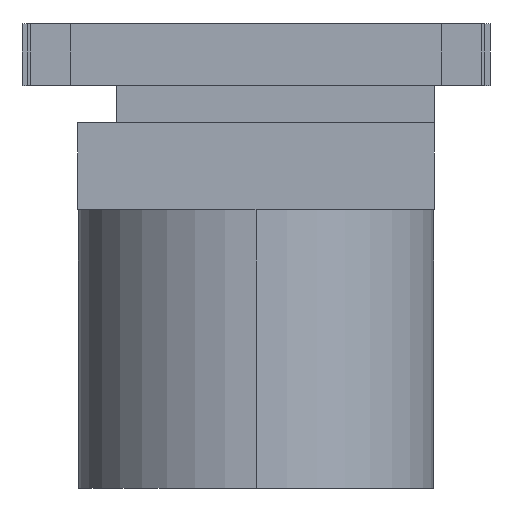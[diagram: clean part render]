
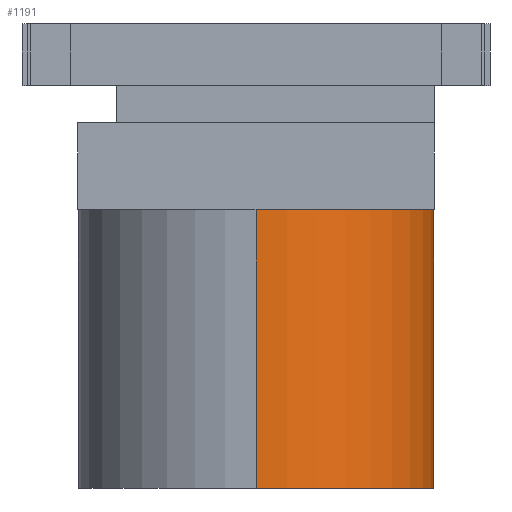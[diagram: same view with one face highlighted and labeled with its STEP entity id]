
A CAD part, left-side view. The second image highlights one B-rep face of the part: STEP entity #1191.
In plain terms, the highlighted cylindrical face has radius 57.35 mm (diameter 114.7 mm), a partial arc.
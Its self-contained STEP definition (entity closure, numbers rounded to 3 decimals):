
#15=CIRCLE('',#1298,57.35);
#16=CIRCLE('',#1299,57.35);
#19=CYLINDRICAL_SURFACE('',#1297,57.35);
#53=FACE_OUTER_BOUND('',#129,.T.);
#129=EDGE_LOOP('',(#831,#832,#833,#834));
#221=LINE('',#1743,#379);
#222=LINE('',#1746,#380);
#379=VECTOR('',#1417,304.8);
#380=VECTOR('',#1420,304.8);
#529=VERTEX_POINT('',#1739);
#530=VERTEX_POINT('',#1740);
#531=VERTEX_POINT('',#1742);
#532=VERTEX_POINT('',#1744);
#645=EDGE_CURVE('',#529,#530,#15,.T.);
#646=EDGE_CURVE('',#531,#529,#221,.T.);
#647=EDGE_CURVE('',#532,#531,#16,.T.);
#648=EDGE_CURVE('',#530,#532,#222,.T.);
#831=ORIENTED_EDGE('',*,*,#645,.F.);
#832=ORIENTED_EDGE('',*,*,#646,.F.);
#833=ORIENTED_EDGE('',*,*,#647,.F.);
#834=ORIENTED_EDGE('',*,*,#648,.F.);
#1191=ADVANCED_FACE('',(#53),#19,.T.);
#1297=AXIS2_PLACEMENT_3D('',#1738,#1413,#1414);
#1298=AXIS2_PLACEMENT_3D('',#1741,#1415,#1416);
#1299=AXIS2_PLACEMENT_3D('',#1745,#1418,#1419);
#1413=DIRECTION('center_axis',(0.,0.,1.));
#1414=DIRECTION('ref_axis',(-1.,0.,0.));
#1415=DIRECTION('center_axis',(0.,0.,1.));
#1416=DIRECTION('ref_axis',(-1.,0.,0.));
#1417=DIRECTION('',(0.,0.,1.));
#1418=DIRECTION('center_axis',(0.,0.,-1.));
#1419=DIRECTION('ref_axis',(-1.,0.,0.));
#1420=DIRECTION('',(0.,0.,-1.));
#1738=CARTESIAN_POINT('Origin',(0.,0.,
-150.));
#1739=CARTESIAN_POINT('',(-57.35,0.,-32.));
#1740=CARTESIAN_POINT('',(57.35,0.,-32.));
#1741=CARTESIAN_POINT('Origin',(0.,0.,
-32.));
#1742=CARTESIAN_POINT('',(-57.35,0.,-150.));
#1743=CARTESIAN_POINT('',(-57.35,0.,-150.));
#1744=CARTESIAN_POINT('',(57.35,0.,-150.));
#1745=CARTESIAN_POINT('Origin',(0.,0.,
-150.));
#1746=CARTESIAN_POINT('',(57.35,0.,-32.));
